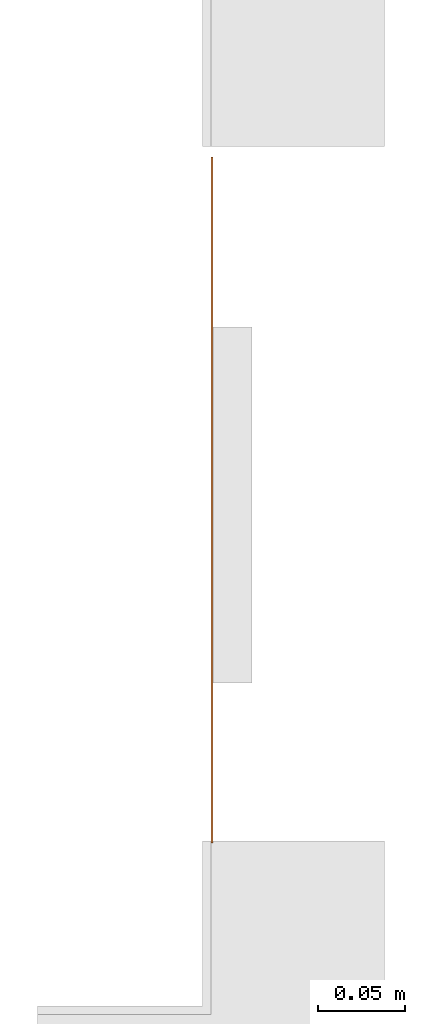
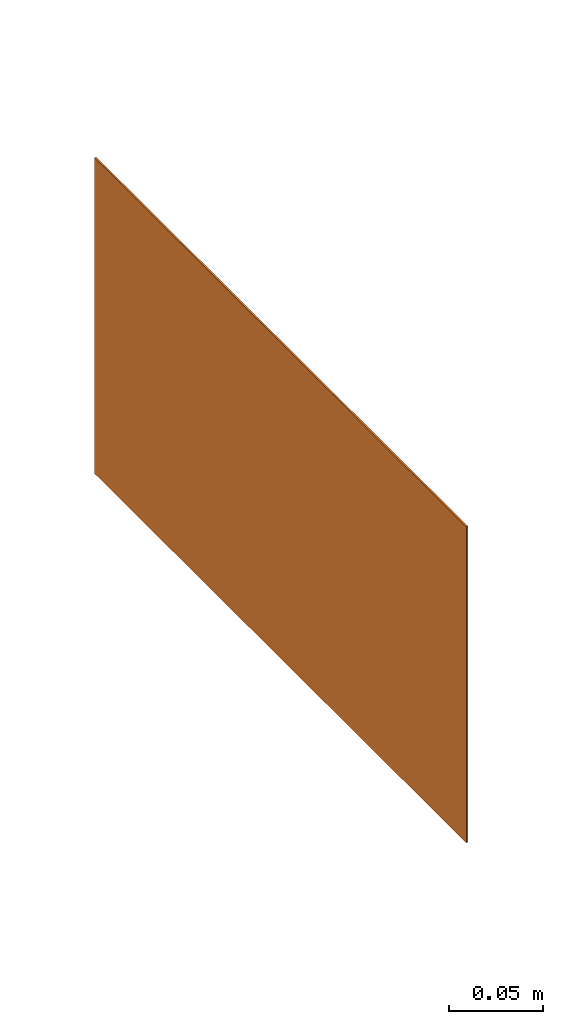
# One storey, part 37 of 119: 1 proxy.
"""IFC2X3 building model written with IfcOpenShell, lengths in metres."""

import ifcopenshell
import ifcopenshell.guid

model = None  # the IFC model being written
_history = None  # IfcOwnerHistory: only IFC2X3 demands one
_inside = {}  # id of a spatial element -> (the spatial element, [elements in it])
_under = {}  # id of a project, library or spatial element -> (it, [spatial elements below it])
_declared = {}  # id of a project -> (the project, [libraries it declares])
_typed = {}  # id of a type object -> (the type object, [elements of that type])
_made_of = {}  # id of a material, layer set ... -> (it, [elements and type objects made of it])


def new_model(schema):
    """Start an empty IFC model of exactly this schema.

    Asked for "IFC4X3", IfcOpenShell would pick the latest addendum, in which some entities
    have other attributes; the version numbers below select the first issue.
    IFC2X3 requires an IfcOwnerHistory on every rooted entity: one is made here for all.
    """
    global model, _history
    if schema == "IFC4X3":
        model = ifcopenshell.file(schema_version=(4, 3, 0, 0))
    else:
        model = ifcopenshell.file(schema=schema)
    _inside.clear()
    _under.clear()
    _declared.clear()
    _typed.clear()
    _made_of.clear()
    _history = None
    if model.schema == "IFC2X3":
        org = make("IfcOrganization", Name="unknown")
        user = make(
            "IfcPersonAndOrganization",
            ThePerson=make("IfcPerson", FamilyName="unknown"),
            TheOrganization=org,
        )
        app = make(
            "IfcApplication",
            ApplicationDeveloper=org,
            Version="unknown",
            ApplicationFullName="unknown",
            ApplicationIdentifier="unknown",
        )
        _history = make(
            "IfcOwnerHistory",
            OwningUser=user,
            OwningApplication=app,
            ChangeAction="ADDED",
            CreationDate=0,
        )
    return model


def make(cls, **values):
    """One entity of the class cls with the attributes given. An attribute that is None is left unset."""
    return model.create_entity(
        cls, **{name: value for name, value in values.items() if value is not None}
    )


def entity(cls, *values):
    """Any entity or typed value of the class cls, its attributes in the order of the schema. None: left unset."""
    e = model.create_entity(cls)
    for i, value in enumerate(values):
        if value is not None:
            e[i] = value
    return e


def rooted(cls, **values):
    """An entity with a GlobalId (a new one), such as an element, a storey or a relation."""
    return make(cls, GlobalId=ifcopenshell.guid.new(), OwnerHistory=_history, **values)


def si_unit(unit_type, name, prefix=None):
    """IfcSIUnit, for example si_unit("LENGTHUNIT", "METRE", prefix="MILLI")."""
    return make("IfcSIUnit", UnitType=unit_type, Prefix=prefix, Name=name)


def converted_unit(unit_type, name, factor, base, dimensions=None, offset=None):
    """IfcConversionBasedUnit, such as the inch: factor (a typed value) times the base unit."""
    return make(
        "IfcConversionBasedUnit"
        if offset is None
        else "IfcConversionBasedUnitWithOffset",
        ConversionOffset=offset,
        Dimensions=None
        if dimensions is None
        else entity("IfcDimensionalExponents", *dimensions),
        UnitType=unit_type,
        Name=name,
        ConversionFactor=make(
            "IfcMeasureWithUnit", ValueComponent=factor, UnitComponent=base
        ),
    )


def derived_unit(unit_type, elements):
    """IfcDerivedUnit: a product of units, each with its exponent."""
    return make(
        "IfcDerivedUnit",
        Elements=[
            make("IfcDerivedUnitElement", Unit=unit, Exponent=power)
            for unit, power in elements
        ],
        UnitType=unit_type,
    )


def assignment(units):
    """IfcUnitAssignment: the units of a project."""
    return None if units is None else make("IfcUnitAssignment", Units=units)


def point(xyz):
    """IfcCartesianPoint."""
    return None if xyz is None else make("IfcCartesianPoint", Coordinates=xyz)


def direction(xyz):
    """IfcDirection."""
    return None if xyz is None else make("IfcDirection", DirectionRatios=xyz)


def frame(location, z_axis=None, x_axis=None):
    """IfcAxis2Placement3D, a coordinate frame: its origin and axes. An axis left out is left unset."""
    return make(
        "IfcAxis2Placement3D",
        Location=point(location),
        Axis=direction(z_axis),
        RefDirection=direction(x_axis),
    )


def frame_2d(location, x_axis=None):
    """IfcAxis2Placement2D, a coordinate frame in the plane: its origin and x axis."""
    return make(
        "IfcAxis2Placement2D", Location=point(location), RefDirection=direction(x_axis)
    )


def origin():
    """The frame at (0, 0, 0) with its axes left unset."""
    return frame((0.0, 0.0, 0.0))


def origin_2d_with_axis():
    """The frame at (0, 0) in the plane with the x axis (1, 0) written out."""
    return frame_2d((0.0, 0.0), x_axis=(1.0, 0.0))


def place(relative_to, where):
    """IfcLocalPlacement: puts the frame where relative to a parent placement (None: the world)."""
    return make(
        "IfcLocalPlacement", PlacementRelTo=relative_to, RelativePlacement=where
    )


def context(
    kind, dimensions, precision=None, world=None, true_north=None, identifier=None
):
    """IfcGeometricRepresentationContext, for example the 3D "Model" context."""
    return make(
        "IfcGeometricRepresentationContext",
        ContextIdentifier=identifier,
        ContextType=kind,
        CoordinateSpaceDimension=dimensions,
        Precision=precision,
        WorldCoordinateSystem=world,
        TrueNorth=true_north,
    )


def subcontext(parent, identifier, kind, view, scale=None):
    """IfcGeometricRepresentationSubContext, for example "Body" below "Model"."""
    return make(
        "IfcGeometricRepresentationSubContext",
        ContextIdentifier=identifier,
        ContextType=kind,
        ParentContext=parent,
        TargetScale=scale,
        TargetView=view,
    )


def project(units=None, contexts=None):
    """IfcProject with its units and contexts."""
    return rooted(
        "IfcProject",
        Name="project",
        RepresentationContexts=contexts,
        UnitsInContext=assignment(units),
    )


def spatial(cls, under=None, at=None, **own):
    """A site, building, storey or space (cls), placed at a placement, below another one or the project."""
    s = rooted(cls, ObjectPlacement=at, **own)
    if under is not None:
        _under.setdefault(under.id(), (under, []))[1].append(s)
    return s


def polyline(points):
    """IfcPolyline through the points."""
    return make("IfcPolyline", Points=[point(p) for p in points])


def circle_curve(where, radius):
    """IfcCircle in the frame where."""
    return make("IfcCircle", Position=where, Radius=radius)


def parameter(value):
    """IfcParameterValue: where a trimmed curve begins or ends, as a parameter of its basis curve."""
    return model.create_entity("IfcParameterValue", value)


def trimmed(basis, trim1, trim2, sense, master):
    """IfcTrimmedCurve: the piece of a basis curve between two trims."""
    return make(
        "IfcTrimmedCurve",
        BasisCurve=basis,
        Trim1=trim1,
        Trim2=trim2,
        SenseAgreement=sense,
        MasterRepresentation=master,
    )


def segment(curve, same_sense, transition):
    """IfcCompositeCurveSegment."""
    return make(
        "IfcCompositeCurveSegment",
        Transition=transition,
        SameSense=same_sense,
        ParentCurve=curve,
    )


def composite_curve(segments, self_intersect=None):
    """IfcCompositeCurve: segments joined end to end."""
    return make("IfcCompositeCurve", Segments=segments, SelfIntersect=self_intersect)


def profile(cls, at=None, kind="AREA", **sizes):
    """A parametric profile (cls). Its sizes go by their IFC names, for example OverallWidth=200.0."""
    return make(cls, ProfileType=kind, Position=at, **sizes)


def rectangle(**sizes):
    """IfcRectangleProfileDef."""
    return profile("IfcRectangleProfileDef", **sizes)


def outline(outer, holes=None, kind="AREA"):
    """IfcArbitraryClosedProfileDef: a profile drawn as a closed curve; with holes, ...WithVoids."""
    if holes is None:
        return make("IfcArbitraryClosedProfileDef", ProfileType=kind, OuterCurve=outer)
    return make(
        "IfcArbitraryProfileDefWithVoids",
        ProfileType=kind,
        OuterCurve=outer,
        InnerCurves=holes,
    )


def extrude(swept, where, along, depth):
    """IfcExtrudedAreaSolid: the profile swept, set in the frame where, extruded along a direction by depth."""
    return make(
        "IfcExtrudedAreaSolid",
        SweptArea=swept,
        Position=where,
        ExtrudedDirection=direction(along),
        Depth=depth,
    )


def shape(context_of_items, identifier, shape_type, items):
    """IfcShapeRepresentation: the items that make up one representation, for example the "Body"."""
    return make(
        "IfcShapeRepresentation",
        ContextOfItems=context_of_items,
        RepresentationIdentifier=identifier,
        RepresentationType=shape_type,
        Items=items,
    )


def source(mapping_origin, context_of_items, identifier, shape_type, items):
    """IfcRepresentationMap: a shape defined once, which mapped items show again and again."""
    return make(
        "IfcRepresentationMap",
        MappingOrigin=mapping_origin,
        MappedRepresentation=shape(context_of_items, identifier, shape_type, items),
    )


def transform(
    local_origin,
    x_axis=None,
    y_axis=None,
    z_axis=None,
    scale=None,
    scale2=None,
    scale3=None,
    uniform=True,
):
    """IfcCartesianTransformationOperator3D, or its non-uniform kind. x_axis, y_axis, z_axis: its Axis1, 2, 3."""
    if uniform:
        return make(
            "IfcCartesianTransformationOperator3D",
            Axis1=direction(x_axis),
            Axis2=direction(y_axis),
            LocalOrigin=point(local_origin),
            Scale=scale,
            Axis3=direction(z_axis),
        )
    return make(
        "IfcCartesianTransformationOperator3DnonUniform",
        Axis1=direction(x_axis),
        Axis2=direction(y_axis),
        LocalOrigin=point(local_origin),
        Scale=scale,
        Axis3=direction(z_axis),
        Scale2=scale2,
        Scale3=scale3,
    )


def mapped(mapping_source, mapping_target):
    """IfcMappedItem: shows the shape of a source again, moved by a transform."""
    return make(
        "IfcMappedItem", MappingSource=mapping_source, MappingTarget=mapping_target
    )


def material(Name=None, Category=None):
    """IfcMaterial."""
    return make("IfcMaterial", Name=Name, Category=Category)


def material_list(materials):
    """IfcMaterialList."""
    return make("IfcMaterialList", Materials=materials)


def made_of(thing, what):
    """Note that an element or type object is made of a material, layer set ...; save() writes the relation."""
    if what is not None:
        _made_of.setdefault(what.id(), (what, []))[1].append(thing)
    return thing


def type_object(cls, material=None, **own):
    """A type object (cls), such as IfcWallType, which elements share."""
    return made_of(rooted(cls, **own), material)


def type_shapes(of_type, sources):
    """Give a type object the sources (RepresentationMaps) that its elements show as mapped items."""
    of_type.RepresentationMaps = sources


def element(
    cls,
    number,
    at=None,
    inside=None,
    cuts=None,
    type_object=None,
    material=None,
    context=None,
    identifier="Body",
    shape_type=None,
    held_by="IfcProductDefinitionShape",
    body=None,
    shapes=None,
    **own,
):
    """One element of the class cls, such as IfcWall. Its Tag is "e" and its number.

    at: its placement. inside: the storey or other place that contains it. cuts: it is an
    opening in that element (IfcRelVoidsElement). A single representation is given by context,
    identifier, shape_type and body (its items); several are given by shapes. held_by: the class
    of the entity that holds the representations. save() writes the other relations.
    """
    e = rooted(cls, Tag="e%d" % number, ObjectPlacement=at, **own)
    if body is not None:
        shapes = [shape(context, identifier, shape_type, body)]
    if shapes is not None:
        e.Representation = make(held_by, Representations=shapes)
    if inside is not None:
        _inside.setdefault(inside.id(), (inside, []))[1].append(e)
    if cuts is not None:
        rooted(
            "IfcRelVoidsElement", RelatingBuildingElement=cuts, RelatedOpeningElement=e
        )
    if type_object is not None:
        _typed.setdefault(type_object.id(), (type_object, []))[1].append(e)
    return made_of(e, material)


def aggregate(whole, parts):
    """IfcRelAggregates: a whole, such as a stair, and the parts it consists of."""
    return rooted("IfcRelAggregates", RelatingObject=whole, RelatedObjects=parts)


def save(model, path):
    """Write the relations noted so far, then the file.

    IfcRelAggregates (storeys below a building ...), IfcRelContainedInSpatialStructure (elements
    in a storey), IfcRelDefinesByType, IfcRelAssociatesMaterial and IfcRelDeclares: one each for
    every whole, place, type object, material and project.
    """
    for whole, parts in _under.values():
        aggregate(whole, parts)
    for where, things in _inside.values():
        rooted(
            "IfcRelContainedInSpatialStructure",
            RelatedElements=things,
            RelatingStructure=where,
        )
    for kind, things in _typed.values():
        rooted("IfcRelDefinesByType", RelatedObjects=things, RelatingType=kind)
    for what, things in _made_of.values():
        rooted("IfcRelAssociatesMaterial", RelatedObjects=things, RelatingMaterial=what)
    for by, libraries in _declared.values():
        rooted("IfcRelDeclares", RelatingContext=by, RelatedDefinitions=libraries)
    model.write(path)


model = new_model("IFC2X3")

# Units and contexts
model_context = context("Model", 3, precision=1e-05, world=origin(), true_north=direction((6.12303176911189e-17, 1.0)))
body_context = subcontext(model_context, "Body", "Model", "MODEL_VIEW")
ifc_project = project(units=[si_unit("LENGTHUNIT", "METRE"), si_unit("AREAUNIT", "SQUARE_METRE"), si_unit("VOLUMEUNIT", "CUBIC_METRE"), converted_unit("PLANEANGLEUNIT", "DEGREE", entity("IfcRatioMeasure", 0.0174532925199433), si_unit("PLANEANGLEUNIT", "RADIAN"), dimensions=[0, 0, 0, 0, 0, 0, 0]), si_unit("MASSUNIT", "GRAM", prefix="KILO"), derived_unit("MASSDENSITYUNIT", [(si_unit("MASSUNIT", "GRAM", prefix="KILO"), 1), (si_unit("LENGTHUNIT", "METRE"), -3)]), derived_unit("MOMENTOFINERTIAUNIT", [(si_unit("LENGTHUNIT", "METRE"), 4)]), si_unit("TIMEUNIT", "SECOND"), si_unit("FREQUENCYUNIT", "HERTZ"), si_unit("THERMODYNAMICTEMPERATUREUNIT", "DEGREE_CELSIUS"), derived_unit("THERMALTRANSMITTANCEUNIT", [(si_unit("MASSUNIT", "GRAM", prefix="KILO"), 1), (si_unit("THERMODYNAMICTEMPERATUREUNIT", "KELVIN"), -1), (si_unit("TIMEUNIT", "SECOND"), -3)]), derived_unit("VOLUMETRICFLOWRATEUNIT", [(si_unit("LENGTHUNIT", "METRE"), 3), (si_unit("TIMEUNIT", "SECOND"), -1)]), si_unit("ELECTRICCURRENTUNIT", "AMPERE"), si_unit("ELECTRICVOLTAGEUNIT", "VOLT"), si_unit("POWERUNIT", "WATT"), si_unit("FORCEUNIT", "NEWTON", prefix="KILO"), si_unit("ILLUMINANCEUNIT", "LUX"), si_unit("LUMINOUSFLUXUNIT", "LUMEN"), si_unit("LUMINOUSINTENSITYUNIT", "CANDELA"), derived_unit("USERDEFINED", [(si_unit("MASSUNIT", "GRAM", prefix="KILO"), -1), (si_unit("LENGTHUNIT", "METRE"), -2), (si_unit("TIMEUNIT", "SECOND"), 3), (si_unit("LUMINOUSFLUXUNIT", "LUMEN"), 1)]), derived_unit("LINEARVELOCITYUNIT", [(si_unit("LENGTHUNIT", "METRE"), 1), (si_unit("TIMEUNIT", "SECOND"), -1)]), si_unit("PRESSUREUNIT", "PASCAL"), derived_unit("USERDEFINED", [(si_unit("LENGTHUNIT", "METRE"), -2), (si_unit("MASSUNIT", "GRAM", prefix="KILO"), 1), (si_unit("TIMEUNIT", "SECOND"), -2)]), derived_unit("LINEARFORCEUNIT", [(si_unit("MASSUNIT", "GRAM", prefix="KILO"), 1), (si_unit("LENGTHUNIT", "METRE"), 1), (si_unit("TIMEUNIT", "SECOND"), -2), (si_unit("LENGTHUNIT", "METRE"), -1)]), derived_unit("PLANARFORCEUNIT", [(si_unit("MASSUNIT", "GRAM", prefix="KILO"), 1), (si_unit("LENGTHUNIT", "METRE"), 1), (si_unit("TIMEUNIT", "SECOND"), -2), (si_unit("LENGTHUNIT", "METRE"), -2)])], contexts=[model_context])

# Site, building, storey
site_placement = place(None, origin())
site = spatial("IfcSite", under=ifc_project, at=site_placement, Name="Default", CompositionType="ELEMENT")
building_placement = place(site_placement, origin())
building = spatial("IfcBuilding", under=site, at=building_placement, CompositionType="ELEMENT")
storey_placement = place(building_placement, origin())
storey = spatial("IfcBuildingStorey", under=building, at=storey_placement, Name="PAV. 01 - TÉRREO", CompositionType="ELEMENT", Elevation=0.0)

# Proxy
ifc_material_1 = material(Name="Plastico branco")
ifc_material_2 = material(Name="Plastico Verde")
ifc_material_list = material_list([ifc_material_1, ifc_material_2])
building_element_proxy_type = type_object("IfcBuildingElementProxyType", Name="Sinalização de orientação - S02 - Indicação do sentido da saída de emergência esquerda:Distância 12m", PredefinedType="NOTDEFINED", material=ifc_material_1)
shared_shape = source(origin(), body_context, "Body", "SweptSolid", [
    extrude(outline(polyline([(-0.0269307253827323, -0.024231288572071), (-0.0259628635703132, -0.024231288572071), (-0.0248498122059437, -0.0234083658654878), (-0.0236286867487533, -0.0219305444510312), (-0.0223366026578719, -0.0199658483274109), (-0.0210106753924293, -0.0176823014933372), (-0.0159905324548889, -0.00832626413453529), (-0.0136800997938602, -0.00426313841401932), (-0.0125256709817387, -0.00238736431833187), (-0.0113513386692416, -0.000610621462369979), (-0.0101417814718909, 0.0010707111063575), (-0.00888166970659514, 0.00266026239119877), (-0.00754048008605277, 0.00417640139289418), (-0.00604105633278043, 0.00568273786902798), (-0.00429732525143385, 0.00725153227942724), (-0.00222321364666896, 0.00895504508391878), (0.000267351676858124, 0.010865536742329), (0.0161156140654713, 0.0220225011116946), (0.00541084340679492, 0.027666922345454), (0.004563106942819, 0.0280964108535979), (0.00398677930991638, 0.0283743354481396), (0.00361343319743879, 0.0285356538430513), (0.00337464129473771, 0.0286153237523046), (0.0032019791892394, 0.0286482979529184), (0.00303386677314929, 0.0286578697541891), (0.00283021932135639, 0.0286307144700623), (0.00255516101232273, 0.02854633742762), (0.00217281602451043, 0.0283842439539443), (0.00164730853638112, 0.0281239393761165), (0.000942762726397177, 0.0277449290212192), (-0.0154440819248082, 0.0179800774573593), (-0.0169906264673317, 0.0173662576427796), (-0.0184263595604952, 0.0170104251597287), (-0.0197467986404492, 0.0168906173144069), (-0.0209474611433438, 0.0169848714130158), (-0.0220238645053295, 0.017271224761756), (-0.0229715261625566, 0.0177277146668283), (-0.0237859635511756, 0.0183323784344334), (-0.0244626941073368, 0.0190632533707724), (-0.0249972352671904, 0.0198983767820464), (-0.025385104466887, 0.0208157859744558), (-0.0256218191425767, 0.0217935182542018), (-0.02570289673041, 0.0228096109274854), (-0.0256238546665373, 0.023842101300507), (-0.0253802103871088, 0.024869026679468), (-0.024967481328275, 0.0258684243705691), (-0.0243811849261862, 0.026818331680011), (-0.0236168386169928, 0.0276967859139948), (-0.022669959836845, 0.0284818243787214), (-0.012358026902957, 0.0349145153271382), (-0.0056365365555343, 0.0389186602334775), (-0.00143098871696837, 0.0410123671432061), (0.00133311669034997, 0.0417137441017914), (0.00371952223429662, 0.0415365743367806), (0.00635115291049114, 0.0408174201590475), (0.00926485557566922, 0.0396572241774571), (0.0124569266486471, 0.0381406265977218), (0.0382522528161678, 0.0245317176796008), (0.0409647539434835, 0.0230291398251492), (0.0432264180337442, 0.021505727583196), (0.0450948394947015, 0.0197223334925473), (0.0466276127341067, 0.0174398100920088), (0.0478823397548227, 0.0144190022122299), (0.0489477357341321, 0.0103891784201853), (0.0500145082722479, 0.00497609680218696), (0.0529984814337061, -0.0115815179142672), (0.0687826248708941, -0.0199385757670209), (0.101976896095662, 0.0427561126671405), (0.00232291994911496, 0.0955188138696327), (-0.0513007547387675, -0.00576130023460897), (-0.0561261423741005, -0.00320645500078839), (-0.0853051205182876, -0.0156605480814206), (-0.0628396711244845, -0.0275550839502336), (-0.0734521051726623, -0.0475990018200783), (-0.0904241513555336, -0.0529832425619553), (-0.0204118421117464, -0.0900518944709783), (-0.00292720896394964, -0.0849390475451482), (0.0122206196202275, -0.0929592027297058), (-0.00693758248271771, -0.0971859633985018), (0.00953030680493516, -0.105905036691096), (0.0262018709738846, -0.100361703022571), (0.0628213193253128, -0.0311978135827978), (0.0451218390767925, -0.0218302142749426), (0.0436304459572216, -0.0209809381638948), (0.0424868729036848, -0.020192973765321), (0.041614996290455, -0.0193663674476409), (0.0409386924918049, -0.0184011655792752), (0.0403818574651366, -0.0171974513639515), (0.0398810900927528, -0.0156792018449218), (0.0394075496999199, -0.0138354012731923), (0.0389382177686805, -0.0116659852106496), (0.0366426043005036, 0.000269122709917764), (0.0172569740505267, -0.0138624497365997), (0.0147941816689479, -0.0880984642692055), (-0.000353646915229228, -0.0800783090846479), (-0.000324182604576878, -0.0142849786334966), (-0.0124368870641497, -0.0319051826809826), (-0.0138384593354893, -0.0341119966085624), (-0.0151491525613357, -0.0360250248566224), (-0.0164165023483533, -0.0376353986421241), (-0.0176880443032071, -0.0389342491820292), (-0.0190113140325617, -0.0399127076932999), (-0.0204338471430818, -0.0405619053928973), (-0.0220031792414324, -0.0408729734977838), (-0.0237668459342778, -0.0408370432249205), (-0.025772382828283, -0.0404452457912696), (-0.0280673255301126, -0.0396887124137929), (-0.0306992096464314, -0.0385585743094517), (-0.0337155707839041, -0.0370459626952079), (-0.0714172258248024, -0.0170844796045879), (-0.0536029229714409, -0.0101094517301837), (-0.0269307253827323, -0.024231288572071)]), holes=[composite_curve([segment(trimmed(circle_curve(frame_2d((0.0517161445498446, 0.0359195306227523), x_axis=(0.883770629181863, -0.46792037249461)), 0.0134), [parameter(180.0)], [parameter(360.0)], True, "PARAMETER"), False, "CONTINUOUS"), segment(trimmed(circle_curve(frame_2d((0.0517161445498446, 0.0359195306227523), x_axis=(0.883770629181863, -0.46792037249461)), 0.0134), [parameter(2.03555499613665e-13)], [parameter(180.0)], True, "PARAMETER"), False, "CONTINUOUS")], self_intersect=False)]), frame((0.112957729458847, -0.00110000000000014, 1.90431633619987), z_axis=(0.0, 1.0, 0.0), x_axis=(-0.883770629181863, 0.0, 0.46792037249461)), (0.0, 0.0, 1.0), 0.0011),
    extrude(outline(polyline([(-0.197500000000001, -0.102500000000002), (0.197500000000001, -0.102500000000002), (0.197500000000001, 0.102500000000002), (-0.197500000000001, 0.102500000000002), (-0.197500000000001, -0.102500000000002)]), holes=[polyline([(-0.190000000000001, -0.0950000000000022), (-0.190000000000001, 0.0949999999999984), (0.189999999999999, 0.0949999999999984), (0.189999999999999, -0.0950000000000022), (-0.190000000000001, -0.0950000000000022)])]), frame((0.0, -0.0011, 1.9025), z_axis=(0.0, 1.0, 0.0), x_axis=(1.0, 0.0, 0.0)), (0.0, 0.0, 1.0), 0.0011),
    extrude(rectangle(XDim=0.38, YDim=0.001, at=origin_2d_with_axis()), frame((0.0, -0.0005, 1.8075)), (0.0, 0.0, 1.0), 0.190000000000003),
    extrude(outline(polyline([(-0.0341511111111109, -0.0575999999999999), (0.016628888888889, -0.0575999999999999), (-0.0218311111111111, -0.0191399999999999), (0.0852288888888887, -0.0191399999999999), (0.0852288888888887, 0.0191400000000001), (-0.0218311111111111, 0.0191400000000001), (0.016628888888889, 0.0576000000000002), (-0.0341511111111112, 0.0576000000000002), (-0.0917511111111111, 0.0), (-0.0341511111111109, -0.0575999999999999)])), frame((-0.0852288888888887, -0.0011, 1.9025), z_axis=(0.0, 1.0, 0.0), x_axis=(1.0, 0.0, 0.0)), (0.0, 0.0, 1.0), 0.0011),
])
type_shapes(building_element_proxy_type, [shared_shape])
proxy_placement = place(storey_placement, frame((21.4738560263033, 13.9250403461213, 0.0), z_axis=(0.0, 0.0, 1.0), x_axis=(0.0, 1.0, 0.0)))
element("IfcBuildingElementProxy", 1, at=proxy_placement, inside=storey, type_object=building_element_proxy_type, material=ifc_material_list, Name="Sinalização de orientação - S02 - Indicação do sentido da saída de emergência esquerda:Distância 12m", ObjectType="Sinalização de orientação - S02 - Indicação do sentido da saída de emergência esquerda:Distância 12m", context=body_context, shape_type="MappedRepresentation", body=[
    mapped(shared_shape, transform((0.0, 0.0, 0.0), scale=1.0)),
])

save(model, "model.ifc")
